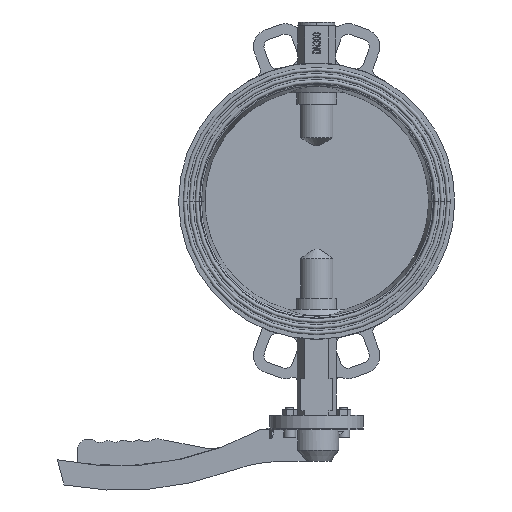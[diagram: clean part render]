
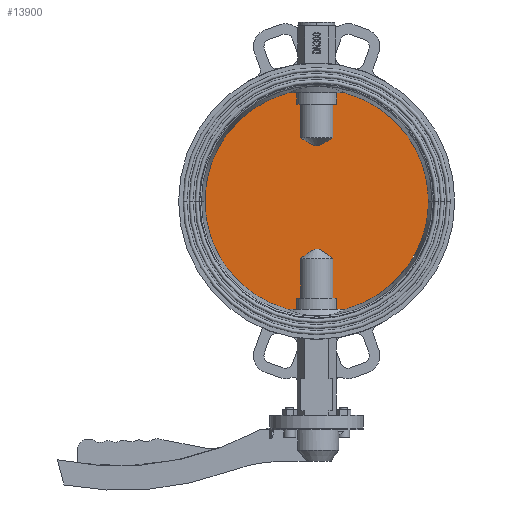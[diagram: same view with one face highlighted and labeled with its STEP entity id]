
A CAD part, front view. The second image highlights one B-rep face of the part: STEP entity #13900.
In plain terms, the highlighted planar face has unit normal (0, -1, 0) as drawn and (0, 1, 0) by its records, which use the part's own axes.
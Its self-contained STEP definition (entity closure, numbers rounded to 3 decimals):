
#13297=DIRECTION('',(0.,0.,-1.));
#13298=VECTOR('',#13297,15.);
#13299=CARTESIAN_POINT('',(26.721,6.5,-130.));
#13300=LINE('',#13299,#13298);
#13301=DIRECTION('',(1.,0.,0.));
#13302=VECTOR('',#13301,11.685);
#13303=CARTESIAN_POINT('',(26.721,6.5,-145.));
#13304=LINE('',#13303,#13302);
#13305=DIRECTION('',(-1.,0.,0.));
#13306=VECTOR('',#13305,11.685);
#13307=CARTESIAN_POINT('',(38.406,6.5,145.));
#13308=LINE('',#13307,#13306);
#13309=DIRECTION('',(0.,0.,-1.));
#13310=VECTOR('',#13309,15.);
#13311=CARTESIAN_POINT('',(26.721,6.5,145.));
#13312=LINE('',#13311,#13310);
#13313=DIRECTION('',(-1.,0.,0.));
#13314=VECTOR('',#13313,5.18);
#13315=CARTESIAN_POINT('',(26.721,6.5,130.));
#13316=LINE('',#13315,#13314);
#13317=DIRECTION('',(0.,0.,-1.));
#13318=VECTOR('',#13317,53.);
#13319=CARTESIAN_POINT('',(21.541,6.5,130.));
#13320=LINE('',#13319,#13318);
#13321=DIRECTION('',(0.,0.,-1.));
#13322=VECTOR('',#13321,53.);
#13323=CARTESIAN_POINT('',(-21.541,6.5,130.));
#13324=LINE('',#13323,#13322);
#13325=DIRECTION('',(-1.,0.,0.));
#13326=VECTOR('',#13325,5.18);
#13327=CARTESIAN_POINT('',(-21.541,6.5,130.));
#13328=LINE('',#13327,#13326);
#13329=DIRECTION('',(0.,0.,-1.));
#13330=VECTOR('',#13329,15.);
#13331=CARTESIAN_POINT('',(-26.721,6.5,145.));
#13332=LINE('',#13331,#13330);
#13333=DIRECTION('',(-1.,0.,0.));
#13334=VECTOR('',#13333,11.685);
#13335=CARTESIAN_POINT('',(-26.721,6.5,145.));
#13336=LINE('',#13335,#13334);
#13337=DIRECTION('',(1.,0.,0.));
#13338=VECTOR('',#13337,11.685);
#13339=CARTESIAN_POINT('',(-38.406,6.5,-145.));
#13340=LINE('',#13339,#13338);
#13341=DIRECTION('',(0.,0.,-1.));
#13342=VECTOR('',#13341,15.);
#13343=CARTESIAN_POINT('',(-26.721,6.5,-130.));
#13344=LINE('',#13343,#13342);
#13345=DIRECTION('',(-1.,0.,0.));
#13346=VECTOR('',#13345,5.18);
#13347=CARTESIAN_POINT('',(-21.541,6.5,-130.));
#13348=LINE('',#13347,#13346);
#13349=DIRECTION('',(0.,0.,-1.));
#13350=VECTOR('',#13349,45.);
#13351=CARTESIAN_POINT('',(-21.541,6.5,-85.));
#13352=LINE('',#13351,#13350);
#13353=DIRECTION('',(0.,0.,-1.));
#13354=VECTOR('',#13353,45.);
#13355=CARTESIAN_POINT('',(21.541,6.5,-85.));
#13356=LINE('',#13355,#13354);
#13357=DIRECTION('',(-1.,0.,0.));
#13358=VECTOR('',#13357,5.18);
#13359=CARTESIAN_POINT('',(26.721,6.5,-130.));
#13360=LINE('',#13359,#13358);
#13370=CARTESIAN_POINT('',(0.,6.5,0.));
#13371=DIRECTION('',(0.,1.,0.));
#13372=DIRECTION('',(0.256,0.,0.967));
#13373=AXIS2_PLACEMENT_3D('',#13370,#13371,#13372);
#13379=CARTESIAN_POINT('',(0.,6.5,0.));
#13380=DIRECTION('',(0.,1.,0.));
#13381=DIRECTION('',(-0.256,0.,-0.967));
#13382=AXIS2_PLACEMENT_3D('',#13379,#13380,#13381);
#13470=CARTESIAN_POINT('',(-21.541,6.5,77.));
#13471=CARTESIAN_POINT('',(-20.468,6.5,76.178));
#13472=CARTESIAN_POINT('',(-18.4,6.5,74.605));
#13473=CARTESIAN_POINT('',(-15.54,6.5,72.467));
#13474=CARTESIAN_POINT('',(-12.898,6.5,70.543));
#13475=CARTESIAN_POINT('',(-10.461,6.5,68.836));
#13476=CARTESIAN_POINT('',(-8.211,6.5,67.355));
#13477=CARTESIAN_POINT('',(-6.136,6.5,66.12));
#13478=CARTESIAN_POINT('',(-4.211,6.5,65.155));
#13479=CARTESIAN_POINT('',(-2.457,6.5,64.511));
#13480=CARTESIAN_POINT('',(-0.809,6.5,64.187));
#13481=CARTESIAN_POINT('',(0.807,6.5,64.186));
#13482=CARTESIAN_POINT('',(2.455,6.5,64.51));
#13483=CARTESIAN_POINT('',(4.209,6.5,65.154));
#13484=CARTESIAN_POINT('',(6.134,6.5,66.119));
#13485=CARTESIAN_POINT('',(8.209,6.5,67.354));
#13486=CARTESIAN_POINT('',(10.46,6.5,68.836));
#13487=CARTESIAN_POINT('',(12.898,6.5,70.542));
#13488=CARTESIAN_POINT('',(15.54,6.5,72.467));
#13489=CARTESIAN_POINT('',(18.4,6.5,74.605));
#13490=CARTESIAN_POINT('',(20.467,6.5,76.178));
#13491=CARTESIAN_POINT('',(21.541,6.5,77.));
#13596=CARTESIAN_POINT('',(21.541,6.5,-85.));
#13597=CARTESIAN_POINT('',(20.405,6.5,-84.275));
#13598=CARTESIAN_POINT('',(18.219,6.5,-82.889));
#13599=CARTESIAN_POINT('',(15.201,6.5,-81.013));
#13600=CARTESIAN_POINT('',(12.422,6.5,-79.335));
#13601=CARTESIAN_POINT('',(9.87,6.5,-77.862));
#13602=CARTESIAN_POINT('',(7.531,6.5,-76.609));
#13603=CARTESIAN_POINT('',(5.391,6.5,-75.597));
#13604=CARTESIAN_POINT('',(3.441,6.5,-74.863));
#13605=CARTESIAN_POINT('',(1.684,6.5,-74.43));
#13606=CARTESIAN_POINT('',(-0.014,6.5,-74.284));
#13607=CARTESIAN_POINT('',(-1.712,6.5,-74.435));
#13608=CARTESIAN_POINT('',(-3.472,6.5,-74.873));
#13609=CARTESIAN_POINT('',(-5.419,6.5,-75.609));
#13610=CARTESIAN_POINT('',(-7.556,6.5,-76.621));
#13611=CARTESIAN_POINT('',(-9.891,6.5,-77.874));
#13612=CARTESIAN_POINT('',(-12.439,6.5,-79.345));
#13613=CARTESIAN_POINT('',(-15.212,6.5,-81.02));
#13614=CARTESIAN_POINT('',(-18.225,6.5,-82.893));
#13615=CARTESIAN_POINT('',(-20.407,6.5,-84.276));
#13616=CARTESIAN_POINT('',(-21.541,6.5,-85.));
#13642=CARTESIAN_POINT('',(38.406,6.5,-145.));
#13644=VERTEX_POINT('',#13642);
#13646=CARTESIAN_POINT('',(-38.406,6.5,-145.));
#13648=VERTEX_POINT('',#13646);
#13650=CARTESIAN_POINT('',(-38.406,6.5,145.));
#13652=VERTEX_POINT('',#13650);
#13654=CARTESIAN_POINT('',(38.406,6.5,145.));
#13656=VERTEX_POINT('',#13654);
#13673=CARTESIAN_POINT('',(21.541,6.5,130.));
#13674=CARTESIAN_POINT('',(21.541,6.5,77.));
#13675=VERTEX_POINT('',#13673);
#13676=VERTEX_POINT('',#13674);
#13677=CARTESIAN_POINT('',(26.721,6.5,130.));
#13678=VERTEX_POINT('',#13677);
#13679=CARTESIAN_POINT('',(-21.541,6.5,130.));
#13680=CARTESIAN_POINT('',(-26.721,6.5,130.));
#13681=VERTEX_POINT('',#13679);
#13682=VERTEX_POINT('',#13680);
#13683=CARTESIAN_POINT('',(26.721,6.5,145.));
#13684=VERTEX_POINT('',#13683);
#13685=CARTESIAN_POINT('',(-21.541,6.5,77.));
#13686=VERTEX_POINT('',#13685);
#13687=CARTESIAN_POINT('',(-26.721,6.5,145.));
#13688=VERTEX_POINT('',#13687);
#13705=CARTESIAN_POINT('',(26.721,6.5,-130.));
#13706=CARTESIAN_POINT('',(26.721,6.5,-145.));
#13707=VERTEX_POINT('',#13705);
#13708=VERTEX_POINT('',#13706);
#13709=CARTESIAN_POINT('',(21.541,6.5,-130.));
#13710=VERTEX_POINT('',#13709);
#13711=CARTESIAN_POINT('',(-21.541,6.5,-130.));
#13712=CARTESIAN_POINT('',(-26.721,6.5,-130.));
#13713=VERTEX_POINT('',#13711);
#13714=VERTEX_POINT('',#13712);
#13715=CARTESIAN_POINT('',(21.541,6.5,-85.));
#13716=VERTEX_POINT('',#13715);
#13717=CARTESIAN_POINT('',(-26.721,6.5,-145.));
#13718=VERTEX_POINT('',#13717);
#13719=CARTESIAN_POINT('',(-21.541,6.5,-85.));
#13720=VERTEX_POINT('',#13719);
#13857=CARTESIAN_POINT('',(0.,6.5,0.));
#13858=DIRECTION('',(0.,1.,0.));
#13859=DIRECTION('',(1.,0.,0.));
#13860=AXIS2_PLACEMENT_3D('',#13857,#13858,#13859);
#13861=PLANE('',#13860);
#13862=ORIENTED_EDGE('',*,*,#13826,.T.);
#13863=ORIENTED_EDGE('',*,*,#13836,.T.);
#13865=ORIENTED_EDGE('',*,*,#13864,.F.);
#13867=ORIENTED_EDGE('',*,*,#13866,.T.);
#13869=ORIENTED_EDGE('',*,*,#13868,.T.);
#13871=ORIENTED_EDGE('',*,*,#13870,.T.);
#13873=ORIENTED_EDGE('',*,*,#13872,.T.);
#13875=ORIENTED_EDGE('',*,*,#13874,.F.);
#13877=ORIENTED_EDGE('',*,*,#13876,.F.);
#13879=ORIENTED_EDGE('',*,*,#13878,.T.);
#13881=ORIENTED_EDGE('',*,*,#13880,.F.);
#13883=ORIENTED_EDGE('',*,*,#13882,.T.);
#13885=ORIENTED_EDGE('',*,*,#13884,.F.);
#13886=ORIENTED_EDGE('',*,*,#13839,.T.);
#13887=ORIENTED_EDGE('',*,*,#13822,.F.);
#13889=ORIENTED_EDGE('',*,*,#13888,.F.);
#13891=ORIENTED_EDGE('',*,*,#13890,.F.);
#13893=ORIENTED_EDGE('',*,*,#13892,.F.);
#13895=ORIENTED_EDGE('',*,*,#13894,.T.);
#13897=ORIENTED_EDGE('',*,*,#13896,.F.);
#13898=EDGE_LOOP('',(#13862,#13863,#13865,#13867,#13869,#13871,#13873,#13875,
#13877,#13879,#13881,#13883,#13885,#13886,#13887,#13889,#13891,#13893,#13895,
#13897));
#13899=FACE_OUTER_BOUND('',#13898,.F.);
#13900=ADVANCED_FACE('',(#13899),#13861,.T.);
#13374=CIRCLE('',#13373,150.);
#13383=CIRCLE('',#13382,150.);
#13492=B_SPLINE_CURVE_WITH_KNOTS('',3,(#13470,#13471,#13472,#13473,#13474,
#13475,#13476,#13477,#13478,#13479,#13480,#13481,#13482,#13483,#13484,#13485,
#13486,#13487,#13488,#13489,#13490,#13491),.UNSPECIFIED.,.F.,.F.,(4,1,1,1,1,1,1,
1,1,1,1,1,1,1,1,1,1,1,1,4),(0.,0.053,0.105,
0.158,0.211,0.263,0.316,
0.368,0.421,0.474,0.526,
0.579,0.632,0.684,0.737,
0.789,0.842,0.895,0.947,1.),
.UNSPECIFIED.);
#13617=B_SPLINE_CURVE_WITH_KNOTS('',3,(#13596,#13597,#13598,#13599,#13600,
#13601,#13602,#13603,#13604,#13605,#13606,#13607,#13608,#13609,#13610,#13611,
#13612,#13613,#13614,#13615,#13616),.UNSPECIFIED.,.F.,.F.,(4,1,1,1,1,1,1,1,1,1,
1,1,1,1,1,1,1,1,4),(0.,0.056,0.111,0.167,
0.222,0.278,0.333,0.389,
0.444,0.5,0.556,0.611,0.667,
0.722,0.778,0.833,0.889,
0.944,1.),.UNSPECIFIED.);
#13822=EDGE_CURVE('',#13714,#13718,#13344,.T.);
#13826=EDGE_CURVE('',#13707,#13708,#13300,.T.);
#13836=EDGE_CURVE('',#13708,#13644,#13304,.T.);
#13839=EDGE_CURVE('',#13648,#13718,#13340,.T.);
#13864=EDGE_CURVE('',#13656,#13644,#13374,.T.);
#13866=EDGE_CURVE('',#13656,#13684,#13308,.T.);
#13868=EDGE_CURVE('',#13684,#13678,#13312,.T.);
#13870=EDGE_CURVE('',#13678,#13675,#13316,.T.);
#13872=EDGE_CURVE('',#13675,#13676,#13320,.T.);
#13874=EDGE_CURVE('',#13686,#13676,#13492,.T.);
#13876=EDGE_CURVE('',#13681,#13686,#13324,.T.);
#13878=EDGE_CURVE('',#13681,#13682,#13328,.T.);
#13880=EDGE_CURVE('',#13688,#13682,#13332,.T.);
#13882=EDGE_CURVE('',#13688,#13652,#13336,.T.);
#13884=EDGE_CURVE('',#13648,#13652,#13383,.T.);
#13888=EDGE_CURVE('',#13713,#13714,#13348,.T.);
#13890=EDGE_CURVE('',#13720,#13713,#13352,.T.);
#13892=EDGE_CURVE('',#13716,#13720,#13617,.T.);
#13894=EDGE_CURVE('',#13716,#13710,#13356,.T.);
#13896=EDGE_CURVE('',#13707,#13710,#13360,.T.);
